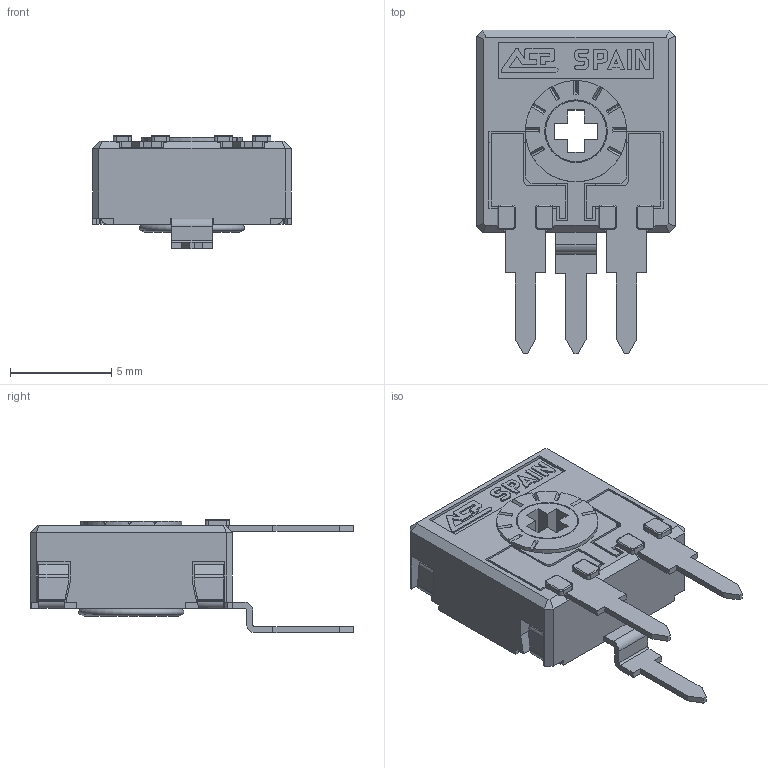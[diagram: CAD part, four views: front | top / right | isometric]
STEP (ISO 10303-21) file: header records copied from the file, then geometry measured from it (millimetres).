
FILE_DESCRIPTION(/* description */ (''),/* implementation_level */ '2;1');
FILE_NAME(/* name */ 'COMCA9RH5.stp',/* time_stamp */ '2026-03-30T17:15:54+02:00',/* author */ ('CEM'),/* organization */ (''),/* preprocessor_version */ 'ST-DEVELOPER v20.1',/* originating_system */ 'Autodesk Inventor 2026',/* authorisation */ '');
FILE_SCHEMA (('AUTOMOTIVE_DESIGN { 1 0 10303 214 3 1 1 }'));
Length unit declared in the file: millimetre
Products named in the file (1): COMCA9RH5
Bounding box: 9.8 x 16 x 5.6 mm (x, y, z)
Volume: 244.2 mm3; surface area: 841.4 mm2
Topology: 2 solids, 2 shells, 598 faces, 1697 edges, 1086 vertices
Faces by surface type: plane 480, cylinder 83, torus 19, cone 16
Full cylindrical faces by diameter (mm): 3 x1, 3.1 x1, 4 x1, 4.8 x1, 5 x1
Entity records: 19394 total; most frequent: CARTESIAN_POINT 3434, ORIENTED_EDGE 3394, DIRECTION 3144, EDGE_CURVE 1697, LINE 1396, VECTOR 1396, VERTEX_POINT 1086, AXIS2_PLACEMENT_3D 874
